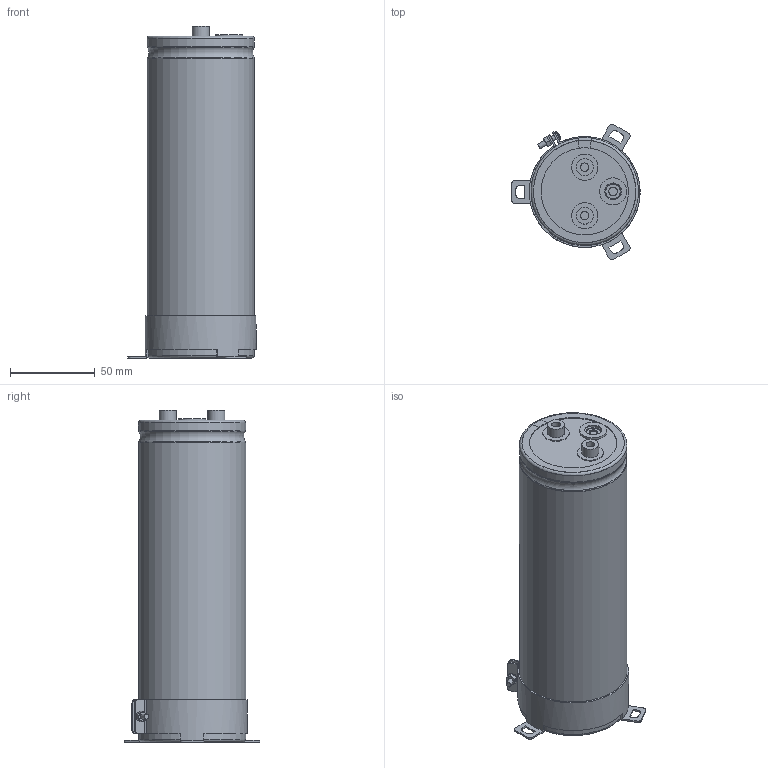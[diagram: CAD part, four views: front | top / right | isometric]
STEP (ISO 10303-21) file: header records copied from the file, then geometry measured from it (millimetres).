
FILE_DESCRIPTION(/* description */ (''),/* implementation_level */ '2;1');
FILE_NAME(/* name */ '63.5x190_Screw.stp',/* time_stamp */ '2017-09-15T19:52:33+09:00',/* author */ (''),/* organization */ (''),/* preprocessor_version */ 'ST-DEVELOPER v16',/* originating_system */ 'SIEMENS PLM Software NX 11.0',/* authorisation */ '');
FILE_SCHEMA (('AUTOMOTIVE_DESIGN { 1 0 10303 214 3 1 1 1 }'));
Length unit declared in the file: millimetre
Products named in the file (1): 63.5x190_Screw
Bounding box: 75.75 x 80.01 x 196 mm (x, y, z)
Volume: 603958.1 mm3; surface area: 134269.7 mm2
Topology: 9 solids, 9 shells, 259 faces, 644 edges, 415 vertices
Faces by surface type: plane 112, cylinder 66, torus 49, cone 31, sphere 1
Full cylindrical faces by diameter (mm): 3 x5, 5 x6, 5.5 x2, 10 x4, 15.5 x2, 16 x1, 62.3 x2
Entity records: 8411 total; most frequent: CARTESIAN_POINT 2059, DIRECTION 1296, ORIENTED_EDGE 1214, EDGE_CURVE 607, AXIS2_PLACEMENT_3D 541, VERTEX_POINT 408, EDGE_LOOP 317, CIRCLE 281
